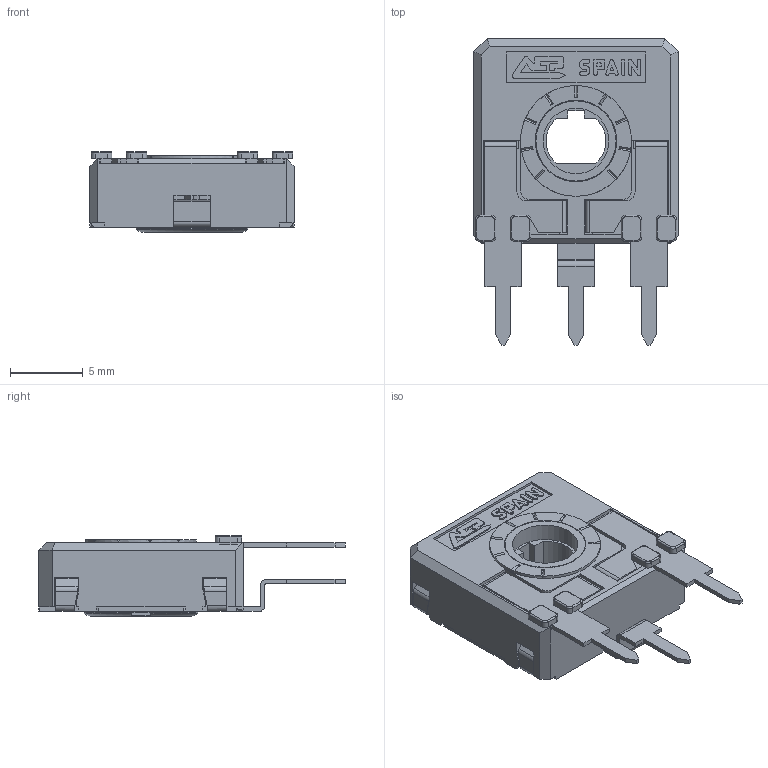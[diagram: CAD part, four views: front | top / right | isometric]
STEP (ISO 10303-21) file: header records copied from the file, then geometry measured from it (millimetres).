
FILE_DESCRIPTION(/* description */ (''),/* implementation_level */ '2;1');
FILE_NAME(/* name */ 'C:\Users\CEM\Desktop\ENVIAR\TRANSICION 3D CATALOGOS\RS14TH2,5.stp',/* time_stamp */ '2025-12-10T11:30:10+01:00',/* author */ ('CEM'),/* organization */ (''),/* preprocessor_version */ 'ST-DEVELOPER v16.13',/* originating_system */ 'Autodesk Inventor 2018',/* authorisation */ '');
FILE_SCHEMA (('AUTOMOTIVE_DESIGN { 1 0 10303 214 3 1 1 }'));
Length unit declared in the file: millimetre
Products named in the file (1): CA14NH2,5
Bounding box: 14 x 21 x 5.55 mm (x, y, z)
Volume: 520.6 mm3; surface area: 1445.7 mm2
Topology: 1 solids, 1 shells, 667 faces, 1875 edges, 1205 vertices
Faces by surface type: plane 495, cylinder 135, torus 23, bspline 8, cone 6
Full cylindrical faces by diameter (mm): 4.5 x1, 5.5 x1, 5.6 x1, 5.752 x1, 6.8 x1, 7.6 x1
Entity records: 21560 total; most frequent: CARTESIAN_POINT 3940, ORIENTED_EDGE 3720, DIRECTION 3506, EDGE_CURVE 1860, LINE 1478, VECTOR 1478, VERTEX_POINT 1200, AXIS2_PLACEMENT_3D 1014
